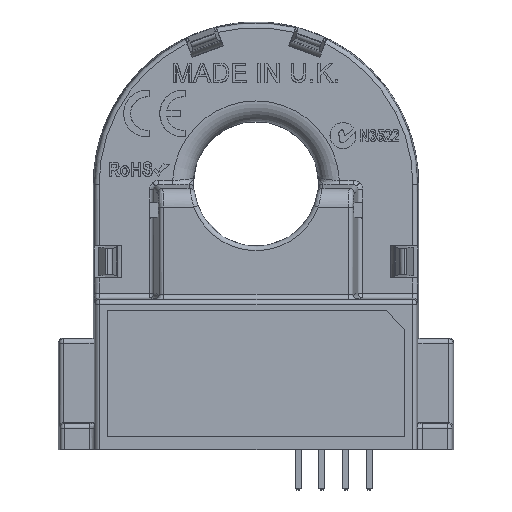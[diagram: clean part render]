
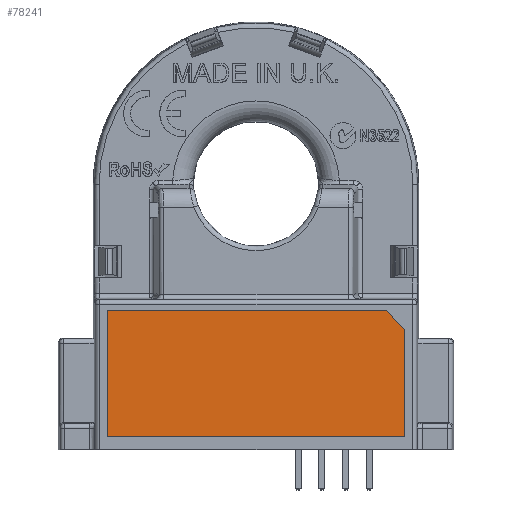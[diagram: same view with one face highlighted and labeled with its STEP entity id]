
A CAD part, top view. The second image highlights one B-rep face of the part: STEP entity #78241.
In plain terms, the highlighted planar face has unit normal (0, 0, 1).
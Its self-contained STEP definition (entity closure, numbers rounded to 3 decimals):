
#65552 = PLANE('',#65553);
#65553 = AXIS2_PLACEMENT_3D('',#65554,#65555,#65556);
#65554 = CARTESIAN_POINT('',(8.946,17.987,
    52.771));
#65555 = DIRECTION('',(0.,0.999,0.035));
#65556 = DIRECTION('',(0.,-0.035,0.999));
#65580 = PLANE('',#65581);
#65581 = AXIS2_PLACEMENT_3D('',#65582,#65583,#65584);
#65582 = CARTESIAN_POINT('',(-23.054,31.487,
    52.771));
#65583 = DIRECTION('',(0.999,0.,0.035));
#65584 = DIRECTION('',(0.035,0.,-0.999));
#65608 = PLANE('',#65609);
#65609 = AXIS2_PLACEMENT_3D('',#65610,#65611,#65612);
#65610 = CARTESIAN_POINT('',(6.946,31.487,
    52.771));
#65611 = DIRECTION('',(0.,-0.999,0.035));
#65612 = DIRECTION('',(0.,-0.035,-0.999));
#65636 = PLANE('',#65637);
#65637 = AXIS2_PLACEMENT_3D('',#65638,#65639,#65640);
#65638 = CARTESIAN_POINT('',(6.946,31.487,
    52.771));
#65639 = DIRECTION('',(-0.707,-0.707,0.035
    ));
#65640 = DIRECTION('',(0.707,-0.707,0.));
#65662 = PLANE('',#65663);
#65663 = AXIS2_PLACEMENT_3D('',#65664,#65665,#65666);
#65664 = CARTESIAN_POINT('',(8.946,29.487,
    52.771));
#65665 = DIRECTION('',(-0.999,0.,0.035));
#65666 = DIRECTION('',(0.035,0.,0.999));
#75541 = VERTEX_POINT('',#75542);
#75542 = CARTESIAN_POINT('',(8.946,17.987,
    52.771));
#75563 = EDGE_CURVE('',#75564,#75541,#75566,.T.);
#75564 = VERTEX_POINT('',#75565);
#75565 = CARTESIAN_POINT('',(-23.054,17.987,
    52.771));
#75566 = SURFACE_CURVE('',#75567,(#75571,#75578),.PCURVE_S1.);
#75567 = LINE('',#75568,#75569);
#75568 = CARTESIAN_POINT('',(8.946,17.987,
    52.771));
#75569 = VECTOR('',#75570,1.);
#75570 = DIRECTION('',(1.,0.,0.));
#75571 = PCURVE('',#65552,#75572);
#75572 = DEFINITIONAL_REPRESENTATION('',(#75573),#75577);
#75573 = LINE('',#75574,#75575);
#75574 = CARTESIAN_POINT('',(0.,0.));
#75575 = VECTOR('',#75576,1.);
#75576 = DIRECTION('',(0.,1.));
#75577 = ( GEOMETRIC_REPRESENTATION_CONTEXT(2) 
PARAMETRIC_REPRESENTATION_CONTEXT() REPRESENTATION_CONTEXT('2D SPACE',''
  ) );
#75578 = PCURVE('',#75579,#75584);
#75579 = PLANE('',#75580);
#75580 = AXIS2_PLACEMENT_3D('',#75581,#75582,#75583);
#75581 = CARTESIAN_POINT('',(-7.054,16.587,
    52.771));
#75582 = DIRECTION('',(0.,0.,-1.));
#75583 = DIRECTION('',(-1.,0.,0.));
#75584 = DEFINITIONAL_REPRESENTATION('',(#75585),#75589);
#75585 = LINE('',#75586,#75587);
#75586 = CARTESIAN_POINT('',(-16.,1.4));
#75587 = VECTOR('',#75588,1.);
#75588 = DIRECTION('',(-1.,0.));
#75589 = ( GEOMETRIC_REPRESENTATION_CONTEXT(2) 
PARAMETRIC_REPRESENTATION_CONTEXT() REPRESENTATION_CONTEXT('2D SPACE',''
  ) );
#75617 = EDGE_CURVE('',#75618,#75564,#75620,.T.);
#75618 = VERTEX_POINT('',#75619);
#75619 = CARTESIAN_POINT('',(-23.054,31.487,
    52.771));
#75620 = SURFACE_CURVE('',#75621,(#75625,#75632),.PCURVE_S1.);
#75621 = LINE('',#75622,#75623);
#75622 = CARTESIAN_POINT('',(-23.054,31.487,
    52.771));
#75623 = VECTOR('',#75624,1.);
#75624 = DIRECTION('',(0.,-1.,0.));
#75625 = PCURVE('',#65580,#75626);
#75626 = DEFINITIONAL_REPRESENTATION('',(#75627),#75631);
#75627 = LINE('',#75628,#75629);
#75628 = CARTESIAN_POINT('',(0.,0.));
#75629 = VECTOR('',#75630,1.);
#75630 = DIRECTION('',(0.,-1.));
#75631 = ( GEOMETRIC_REPRESENTATION_CONTEXT(2) 
PARAMETRIC_REPRESENTATION_CONTEXT() REPRESENTATION_CONTEXT('2D SPACE',''
  ) );
#75632 = PCURVE('',#75579,#75633);
#75633 = DEFINITIONAL_REPRESENTATION('',(#75634),#75638);
#75634 = LINE('',#75635,#75636);
#75635 = CARTESIAN_POINT('',(16.,14.9));
#75636 = VECTOR('',#75637,1.);
#75637 = DIRECTION('',(-0.,-1.));
#75638 = ( GEOMETRIC_REPRESENTATION_CONTEXT(2) 
PARAMETRIC_REPRESENTATION_CONTEXT() REPRESENTATION_CONTEXT('2D SPACE',''
  ) );
#75666 = EDGE_CURVE('',#75667,#75618,#75669,.T.);
#75667 = VERTEX_POINT('',#75668);
#75668 = CARTESIAN_POINT('',(6.946,31.487,
    52.771));
#75669 = SURFACE_CURVE('',#75670,(#75674,#75681),.PCURVE_S1.);
#75670 = LINE('',#75671,#75672);
#75671 = CARTESIAN_POINT('',(6.946,31.487,
    52.771));
#75672 = VECTOR('',#75673,1.);
#75673 = DIRECTION('',(-1.,0.,0.));
#75674 = PCURVE('',#65608,#75675);
#75675 = DEFINITIONAL_REPRESENTATION('',(#75676),#75680);
#75676 = LINE('',#75677,#75678);
#75677 = CARTESIAN_POINT('',(0.,0.));
#75678 = VECTOR('',#75679,1.);
#75679 = DIRECTION('',(0.,-1.));
#75680 = ( GEOMETRIC_REPRESENTATION_CONTEXT(2) 
PARAMETRIC_REPRESENTATION_CONTEXT() REPRESENTATION_CONTEXT('2D SPACE',''
  ) );
#75681 = PCURVE('',#75579,#75682);
#75682 = DEFINITIONAL_REPRESENTATION('',(#75683),#75687);
#75683 = LINE('',#75684,#75685);
#75684 = CARTESIAN_POINT('',(-14.,14.9));
#75685 = VECTOR('',#75686,1.);
#75686 = DIRECTION('',(1.,0.));
#75687 = ( GEOMETRIC_REPRESENTATION_CONTEXT(2) 
PARAMETRIC_REPRESENTATION_CONTEXT() REPRESENTATION_CONTEXT('2D SPACE',''
  ) );
#75715 = EDGE_CURVE('',#75716,#75667,#75718,.T.);
#75716 = VERTEX_POINT('',#75717);
#75717 = CARTESIAN_POINT('',(8.946,29.487,
    52.771));
#75718 = SURFACE_CURVE('',#75719,(#75723,#75730),.PCURVE_S1.);
#75719 = LINE('',#75720,#75721);
#75720 = CARTESIAN_POINT('',(6.946,31.487,
    52.771));
#75721 = VECTOR('',#75722,1.);
#75722 = DIRECTION('',(-0.707,0.707,0.));
#75723 = PCURVE('',#65636,#75724);
#75724 = DEFINITIONAL_REPRESENTATION('',(#75725),#75729);
#75725 = LINE('',#75726,#75727);
#75726 = CARTESIAN_POINT('',(0.,0.));
#75727 = VECTOR('',#75728,1.);
#75728 = DIRECTION('',(-1.,0.));
#75729 = ( GEOMETRIC_REPRESENTATION_CONTEXT(2) 
PARAMETRIC_REPRESENTATION_CONTEXT() REPRESENTATION_CONTEXT('2D SPACE',''
  ) );
#75730 = PCURVE('',#75579,#75731);
#75731 = DEFINITIONAL_REPRESENTATION('',(#75732),#75736);
#75732 = LINE('',#75733,#75734);
#75733 = CARTESIAN_POINT('',(-14.,14.9));
#75734 = VECTOR('',#75735,1.);
#75735 = DIRECTION('',(0.707,0.707));
#75736 = ( GEOMETRIC_REPRESENTATION_CONTEXT(2) 
PARAMETRIC_REPRESENTATION_CONTEXT() REPRESENTATION_CONTEXT('2D SPACE',''
  ) );
#75764 = EDGE_CURVE('',#75541,#75716,#75765,.T.);
#75765 = SURFACE_CURVE('',#75766,(#75770,#75777),.PCURVE_S1.);
#75766 = LINE('',#75767,#75768);
#75767 = CARTESIAN_POINT('',(8.946,29.487,
    52.771));
#75768 = VECTOR('',#75769,1.);
#75769 = DIRECTION('',(0.,1.,0.));
#75770 = PCURVE('',#65662,#75771);
#75771 = DEFINITIONAL_REPRESENTATION('',(#75772),#75776);
#75772 = LINE('',#75773,#75774);
#75773 = CARTESIAN_POINT('',(0.,0.));
#75774 = VECTOR('',#75775,1.);
#75775 = DIRECTION('',(0.,1.));
#75776 = ( GEOMETRIC_REPRESENTATION_CONTEXT(2) 
PARAMETRIC_REPRESENTATION_CONTEXT() REPRESENTATION_CONTEXT('2D SPACE',''
  ) );
#75777 = PCURVE('',#75579,#75778);
#75778 = DEFINITIONAL_REPRESENTATION('',(#75779),#75783);
#75779 = LINE('',#75780,#75781);
#75780 = CARTESIAN_POINT('',(-16.,12.9));
#75781 = VECTOR('',#75782,1.);
#75782 = DIRECTION('',(0.,1.));
#75783 = ( GEOMETRIC_REPRESENTATION_CONTEXT(2) 
PARAMETRIC_REPRESENTATION_CONTEXT() REPRESENTATION_CONTEXT('2D SPACE',''
  ) );
#78241 = ADVANCED_FACE('',(#78242),#75579,.F.);
#78242 = FACE_BOUND('',#78243,.T.);
#78243 = EDGE_LOOP('',(#78244,#78245,#78246,#78247,#78248));
#78244 = ORIENTED_EDGE('',*,*,#75617,.T.);
#78245 = ORIENTED_EDGE('',*,*,#75563,.T.);
#78246 = ORIENTED_EDGE('',*,*,#75764,.T.);
#78247 = ORIENTED_EDGE('',*,*,#75715,.T.);
#78248 = ORIENTED_EDGE('',*,*,#75666,.T.);
